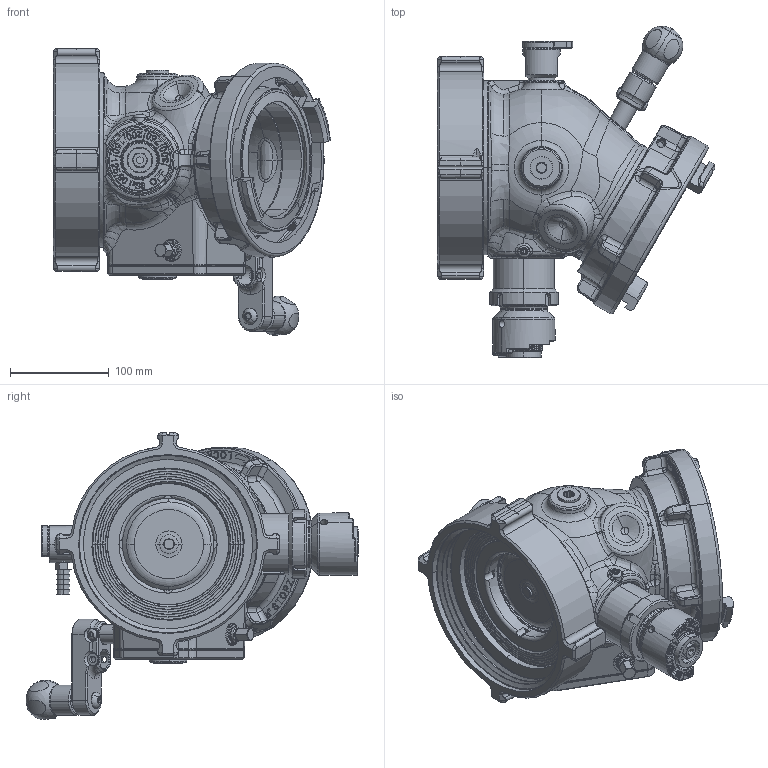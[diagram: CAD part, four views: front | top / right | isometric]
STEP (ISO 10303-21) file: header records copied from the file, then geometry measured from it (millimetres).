
FILE_DESCRIPTION (( 'STEP AP203' ), '1' );
FILE_NAME ('ABD3ST-NX.STEP', '2017-12-05T14:48:58', ( 'Windows User' ), ( '' ), 'SwSTEP 2.0', 'SolidWorks 2017', '' );
FILE_SCHEMA (( 'CONFIG_CONTROL_DESIGN' ));
Length unit declared in the file: inch
Products named in the file (1): ABD3ST-NX
Bounding box: 280.72 x 335.54 x 289.88 mm (x, y, z)
Surface area: 493686.5 mm2 (no closed solid volume)
Topology: 0 solids, 87 shells, 2195 faces, 7763 edges, 5456 vertices
Faces by surface type: plane 599, bspline 530, cylinder 497, cone 337, torus 199, sphere 33
Entity records: 128808 total; most frequent: CARTESIAN_POINT 70068, ORIENTED_EDGE 12491, DIRECTION 10224, EDGE_CURVE 7745, VERTEX_POINT 5453, AXIS2_PLACEMENT_3D 3665, LINE 2894, VECTOR 2894
